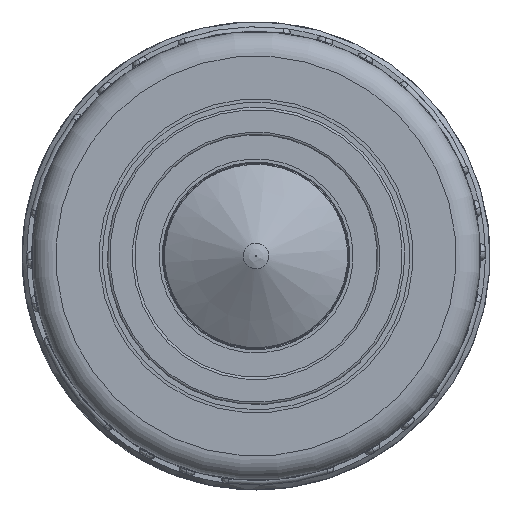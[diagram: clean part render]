
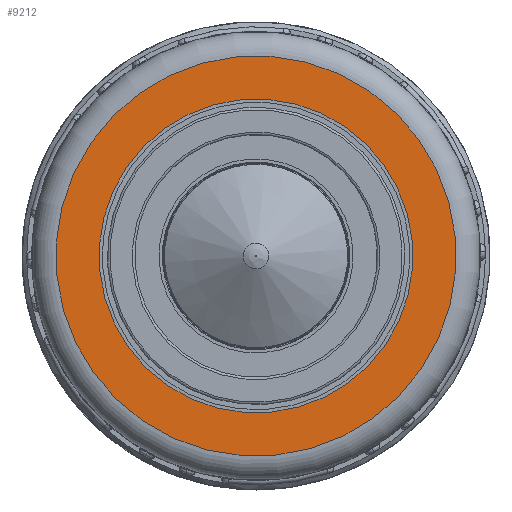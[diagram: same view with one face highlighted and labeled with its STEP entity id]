
A CAD part, front view. The second image highlights one B-rep face of the part: STEP entity #9212.
In plain terms, the highlighted planar face has unit normal (0, -1, 0).
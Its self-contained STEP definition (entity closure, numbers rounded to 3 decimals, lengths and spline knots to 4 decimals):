
#280=FACE_BOUND('',#2591,.T.);
#1555=PLANE('',#9985);
#1961=FACE_OUTER_BOUND('',#2590,.T.);
#2590=EDGE_LOOP('',(#7076));
#2591=EDGE_LOOP('',(#7077));
#3115=CIRCLE('',#9986,4.125);
#3116=CIRCLE('',#9987,3.235);
#4045=VERTEX_POINT('',#37394);
#4046=VERTEX_POINT('',#37396);
#5127=EDGE_CURVE('',#4045,#4045,#3115,.T.);
#5128=EDGE_CURVE('',#4046,#4046,#3116,.T.);
#7076=ORIENTED_EDGE('',*,*,#5127,.F.);
#7077=ORIENTED_EDGE('',*,*,#5128,.T.);
#9212=ADVANCED_FACE('',(#1961,#280),#1555,.T.);
#9985=AXIS2_PLACEMENT_3D('',#37393,#11756,#11757);
#9986=AXIS2_PLACEMENT_3D('',#37395,#11758,#11759);
#9987=AXIS2_PLACEMENT_3D('',#37397,#11760,#11761);
#11756=DIRECTION('center_axis',(0.,-1.,0.));
#11757=DIRECTION('ref_axis',(-0.584,0.,0.812));
#11758=DIRECTION('center_axis',(0.,1.,0.));
#11759=DIRECTION('ref_axis',(-0.812,0.,-0.584));
#11760=DIRECTION('center_axis',(0.,1.,0.));
#11761=DIRECTION('ref_axis',(-0.812,0.,-0.584));
#37393=CARTESIAN_POINT('Origin',(3.3497,-5.1351,2.4074));
#37394=CARTESIAN_POINT('',(3.3497,-5.1351,2.4074));
#37395=CARTESIAN_POINT('Origin',(0.,-5.1351,
0.));
#37396=CARTESIAN_POINT('',(2.6269,-5.1351,1.888));
#37397=CARTESIAN_POINT('Origin',(0.,-5.1351,
0.));
